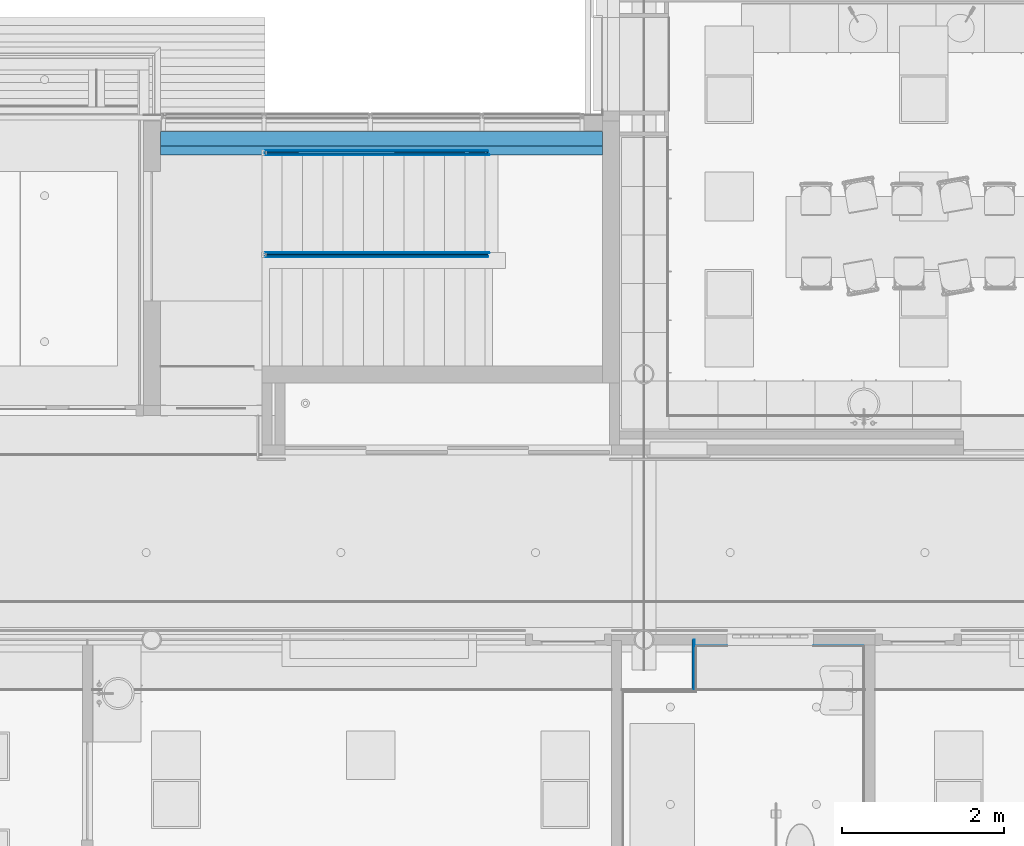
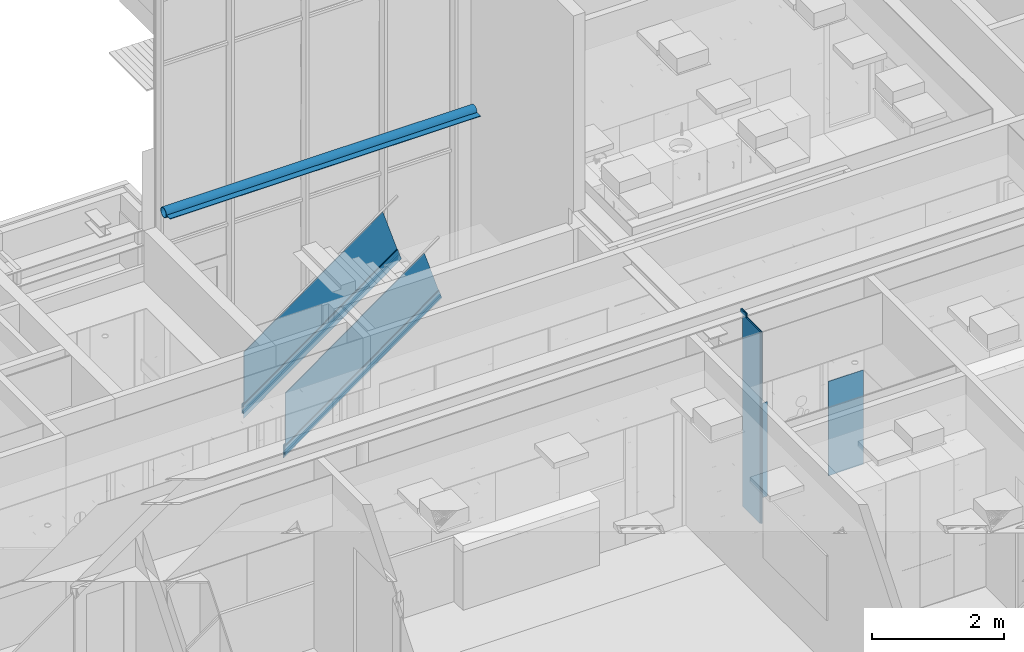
# One storey, part 100 of 347: 16 building element parts, 6 elements without a shape of their own.
"""IFC2X3 building model written with IfcOpenShell, lengths in millimetres."""

from ifc_helpers import new_model, entity, si_unit, converted_unit, derived_unit, money_unit, direction, frame, origin_with_axes, place, context, subcontext, project, spatial, faceted_brep, material, type_object, element, aggregate, save


model = new_model("IFC2X3")

# Units and contexts
model_context = context("Model", 3, precision=0.01, world=origin_with_axes(), true_north=direction((0.0, 1.0)))
plan_context = context("Plan", 3, precision=0.01, world=origin_with_axes(), true_north=direction((0.0, 1.0)))
body_context = subcontext(model_context, "Body", "Model", "MODEL_VIEW")
ifc_project = project(units=[si_unit("LENGTHUNIT", "METRE", prefix="MILLI"), si_unit("AREAUNIT", "SQUARE_METRE"), si_unit("VOLUMEUNIT", "CUBIC_METRE"), converted_unit("PLANEANGLEUNIT", "DEGREE", entity("IfcPlaneAngleMeasure", 0.0174532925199), si_unit("PLANEANGLEUNIT", "RADIAN"), dimensions=[0, 0, 0, 0, 0, 0, 0]), money_unit("EUR"), converted_unit("TIMEUNIT", "Year", entity("IfcTimeMeasure", 31556926.0), si_unit("TIMEUNIT", "SECOND"), dimensions=[0, 0, 1, 0, 0, 0, 0]), si_unit("MASSUNIT", "GRAM", prefix="KILO"), si_unit("THERMODYNAMICTEMPERATUREUNIT", "DEGREE_CELSIUS"), si_unit("LUMINOUSINTENSITYUNIT", "LUMEN"), si_unit("ENERGYUNIT", "JOULE", prefix="MEGA"), derived_unit("THERMALCONDUCTANCEUNIT", [(si_unit("POWERUNIT", "WATT"), 1), (si_unit("LENGTHUNIT", "METRE"), -1), (si_unit("THERMODYNAMICTEMPERATUREUNIT", "KELVIN"), -1)]), derived_unit("SPECIFICHEATCAPACITYUNIT", [(si_unit("ENERGYUNIT", "JOULE"), 1), (si_unit("MASSUNIT", "GRAM", prefix="KILO"), -1), (si_unit("THERMODYNAMICTEMPERATUREUNIT", "KELVIN"), -1)]), derived_unit("MASSDENSITYUNIT", [(si_unit("MASSUNIT", "GRAM", prefix="KILO"), 1), (si_unit("VOLUMEUNIT", "CUBIC_METRE"), -1)])], contexts=[model_context, plan_context])

# Site, building, storey
site_placement = place(None, origin_with_axes())
site = spatial("IfcSite", under=ifc_project, at=site_placement, Name="Site", CompositionType="ELEMENT")
building_placement = place(site_placement, origin_with_axes())
building = spatial("IfcBuilding", under=site, at=building_placement, Name="Naam gebouw", CompositionType="ELEMENT")
storey_placement = place(building_placement, origin_with_axes())
storey = spatial("IfcBuildingStorey", under=building, at=storey_placement, Name="begane grond", CompositionType="ELEMENT", Elevation=0.0)

# Beam, building element parts
beam_type_1 = type_object("IfcBeamType", Name="34 glazen balustrade 60 x 1200", PredefinedType="BEAM")
beam_1_placement = place(storey_placement, frame((19905.0, 18100.0, 28.7999955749), z_axis=(0.0, 0.0, 1.0), x_axis=(0.0, -1.0, 0.0)))
beam_1 = element("IfcBeam", 1, at=beam_1_placement, inside=storey, type_object=beam_type_1, Name="28_Balk-x", ObjectType="BEAM")
ifc_material_1 = material(Name="Glas")
building_element_part_1_placement = place(beam_1_placement, origin_with_axes())
building_element_part_1 = element("IfcBuildingElementPart", 2, at=building_element_part_1_placement, material=ifc_material_1, Name="Glas", context=body_context, shape_type="Brep", body=[
    faceted_brep([(-37.5, 2703.5490107, 1971.20000443), (-37.5, 20.0, 39.0446753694), (-37.5, 20.0, 989.75530976), (-37.5, 2454.69302792, 2742.73432738), (-37.5, 0.0, -28.7999955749), (-37.5, 20.0, -28.7999955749), (-37.5, 2732.57822921, 1881.20000443), (-37.5, 0.0, -86.2563627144), (-22.5, 20.0, 39.0446753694), (-22.5, 20.0, 989.75530976), (-22.5, 20.0, -28.7999955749), (-22.5, 2454.69302792, 2742.73432738), (-22.5, 2703.5490107, 1971.20000443), (-22.5, 2732.57822921, 1881.20000443), (-22.5, 0.0, -28.7999955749), (-22.5, 0.0, -86.2563627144)], [[[0, 1, 2, 3]], [[4, 5, 1, 0, 6, 7]], [[8, 9, 2, 1, 5, 10]], [[3, 2, 9, 11]], [[6, 0, 3, 11, 12, 13]], [[10, 5, 4, 14]], [[13, 15, 7, 6]], [[15, 14, 4, 7]], [[11, 9, 8, 12]], [[8, 10, 14, 15, 13, 12]]]),
])
ifc_material_2 = material(Name="Membraan - rubber")
building_element_part_2_placement = place(beam_1_placement, origin_with_axes())
building_element_part_2 = element("IfcBuildingElementPart", 3, at=building_element_part_2_placement, material=ifc_material_2, Name="Membraan - rubber", context=body_context, shape_type="Brep", body=[
    faceted_brep([(-22.4999940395, 0.0, -86.2563553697), (-22.4999940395, 0.0, -28.7999955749), (-22.4999940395, 20.0, -28.7999955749), (-22.4999940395, 20.0, 39.0446680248), (-22.4999940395, 2703.54901262, 1971.19999846), (-22.4999940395, 2732.57822729, 1881.20001039), (-37.4999940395, 0.0, -86.2563553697), (-37.4999940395, 0.0, -28.7999955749), (-49.9999990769, 0.0, -28.7999955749), (-50.0, 0.0, -98.5787002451), (-10.0, 0.0, -98.5787002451), (-9.99999907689, 0.0, -28.7999955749), (-9.99999907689, 20.0, -28.7999955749), (-9.99999907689, 20.0, 39.0446753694), (-10.0, 2703.5490107, 1971.20000443), (-37.4999940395, 2732.57822729, 1881.20001039), (-10.0, 2735.80369794, 1871.20000443), (-50.0, 2735.80369794, 1871.20000443), (-50.0, 2703.5490107, 1971.20000443), (-37.4999940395, 2703.54901262, 1971.19999846), (-37.4999940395, 20.0, 39.0446680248), (-37.4999940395, 20.0, -28.7999955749), (-49.9999990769, 20.0, -28.7999955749), (-49.9999990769, 20.0, 39.0446753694)], [[[0, 1, 2, 3, 4, 5]], [[6, 7, 8, 9, 10, 11, 1, 0]], [[12, 2, 1, 11]], [[12, 13, 3, 2]], [[4, 3, 13, 14]], [[15, 5, 4, 14, 16, 17, 18, 19]], [[15, 6, 0, 5]], [[20, 21, 7, 6, 15, 19]], [[21, 22, 8, 7]], [[9, 8, 22, 23, 18, 17]], [[16, 10, 9, 17]], [[13, 12, 11, 10, 16, 14]], [[18, 23, 20, 19]], [[21, 20, 23, 22]]]),
])
ifc_material_3 = material(Name="Metaal - Staal C wit")
building_element_part_3_placement = place(beam_1_placement, origin_with_axes())
building_element_part_3 = element("IfcBuildingElementPart", 4, at=building_element_part_3_placement, material=ifc_material_3, Name="Metaal - Staal C wit", context=body_context, shape_type="Brep", body=[
    faceted_brep([(-10.0, 0.0, -147.868050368), (-10.0, 2748.70557283, 1831.20000443), (-10.0, 2768.05838517, 1771.20000443), (-10.0, 0.0, -221.802075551), (-10.0, 0.0, 24.6446750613), (-10.0, 2703.5490107, 1971.20000443), (0.0, 2703.5490107, 1971.20000443), (0.0, 2768.05838517, 1771.20000443), (0.0, 0.0, -221.802075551), (0.0, 0.0, 24.6446750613)], [[[0, 1, 2, 3]], [[4, 5, 1, 0]], [[2, 1, 5, 6, 7]], [[3, 2, 7, 8]], [[4, 0, 3, 8, 9]], [[9, 6, 5, 4]], [[8, 7, 6, 9]]]),
])
building_element_part_4_placement = place(beam_1_placement, origin_with_axes())
building_element_part_4 = element("IfcBuildingElementPart", 5, at=building_element_part_4_placement, material=ifc_material_3, Name="Metaal - Staal C wit", context=body_context, shape_type="Brep", body=[
    faceted_brep([(-60.0, 0.0, 24.6446750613), (-60.0, 2703.5490107, 1971.20000443), (-60.0, 2751.93104155, 1821.20000443), (-60.0, 0.0, -160.190387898), (-50.0, 0.0, 24.6446750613), (-50.0, 2703.5490107, 1971.20000443), (-50.0, 2748.70557283, 1831.20000443), (-50.0, 2751.93104155, 1821.20000443), (-50.0, 0.0, -160.190387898), (-50.0, 0.0, -147.868050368)], [[[0, 1, 2, 3]], [[4, 5, 1, 0]], [[2, 1, 5, 6, 7]], [[3, 2, 7, 8]], [[4, 0, 3, 8, 9]], [[9, 6, 5, 4]], [[8, 7, 6, 9]]]),
])
building_element_part_5_placement = place(beam_1_placement, origin_with_axes())
building_element_part_5 = element("IfcBuildingElementPart", 6, at=building_element_part_5_placement, material=ifc_material_3, Name="Metaal - Staal C wit", context=body_context, shape_type="Brep", body=[
    faceted_brep([(-10.0, 0.0, -98.5787002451), (-10.0, 2735.80369794, 1871.20000443), (-50.0, 2735.80369794, 1871.20000443), (-50.0, 0.0, -98.5787002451), (-10.0, 0.0, -147.868050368), (-10.0, 2748.70557283, 1831.20000443), (-50.0, 2748.70557283, 1831.20000443), (-47.0, 2736.77133855, 1868.20000443), (-47.0, 2747.73793221, 1834.20000443), (-13.0, 2747.73793221, 1834.20000443), (-13.0, 2736.77133855, 1868.20000443), (-50.0, 0.0, -147.868050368), (-13.0, 0.0, -144.171349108), (-47.0, 0.0, -144.171349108), (-47.0, 0.0, -102.275401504), (-13.0, 0.0, -102.275401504)], [[[0, 1, 2, 3]], [[4, 5, 1, 0]], [[2, 1, 5, 6], [7, 8, 9, 10]], [[3, 2, 6, 11]], [[4, 0, 3, 11], [12, 13, 14, 15]], [[11, 6, 5, 4]], [[13, 8, 7, 14]], [[12, 9, 8, 13]], [[15, 10, 9, 12]], [[14, 7, 10, 15]]]),
])
aggregate(beam_1, [building_element_part_1, building_element_part_2, building_element_part_3, building_element_part_4, building_element_part_5])

beam_type_2 = type_object("IfcBeamType", Name="28 windligger 290 x 180", PredefinedType="BEAM")
beam_2_placement = place(storey_placement, frame((18615.0, 18300.0, 3960.0), z_axis=(0.0, 0.0, 1.0), x_axis=(0.0, -1.0, 0.0)))
beam_2 = element("IfcBeam", 7, at=beam_2_placement, inside=storey, type_object=beam_type_2, Name="28_Balk-x", ObjectType="BEAM")
ifc_material_4 = material(Name="Metaal - Staal C")
building_element_part_6_placement = place(beam_2_placement, origin_with_axes())
building_element_part_6 = element("IfcBuildingElementPart", 8, at=building_element_part_6_placement, material=ifc_material_4, Name="Metaal - Staal C", context=body_context, shape_type="Brep", body=[
    faceted_brep([(90.0, 5450.0, 0.0), (86.3543676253, 5450.0, 25.3559301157), (86.3543676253, 0.0, 25.3559301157), (90.0, 0.0, 0.0), (86.3543676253, 5450.0, -25.3559301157), (75.7128179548, 5450.0, -48.657673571), (58.9374660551, 5450.0, -68.0174616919), (37.3873511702, 5450.0, -81.8668795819), (12.8083354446, 5450.0, -89.0839297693), (-12.8083354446, 5450.0, -89.0839297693), (-37.3873511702, 5450.0, -81.8668795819), (-58.9374660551, 5450.0, -68.0174616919), (-75.7128179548, 5450.0, -48.657673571), (-86.3543676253, 5450.0, -25.3559301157), (-90.0, 5450.0, 0.0), (-86.3543676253, 5450.0, 25.3559301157), (-75.7128179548, 5450.0, 48.657673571), (-58.9374660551, 5450.0, 68.0174616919), (-37.3873511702, 5450.0, 81.8668795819), (-12.8083354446, 5450.0, 89.0839297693), (12.8083354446, 5450.0, 89.0839297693), (37.3873511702, 5450.0, 81.8668795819), (58.9374660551, 5450.0, 68.0174616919), (75.7128179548, 5450.0, 48.657673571), (-80.0, 5450.0, 0.0), (-76.0845213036, 5450.0, -24.72135955), (-64.72135955, 5450.0, -47.0228201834), (-47.0228201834, 5450.0, -64.72135955), (-24.72135955, 5450.0, -76.0845213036), (0.0, 5450.0, -80.0), (24.72135955, 5450.0, -76.0845213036), (47.0228201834, 5450.0, -64.72135955), (64.72135955, 5450.0, -47.0228201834), (76.0845213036, 5450.0, -24.72135955), (80.0, 5450.0, 0.0), (76.0845213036, 5450.0, 24.72135955), (64.72135955, 5450.0, 47.0228201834), (47.0228201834, 5450.0, 64.72135955), (24.72135955, 5450.0, 76.0845213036), (0.0, 5450.0, 80.0), (-24.72135955, 5450.0, 76.0845213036), (-47.0228201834, 5450.0, 64.72135955), (-64.72135955, 5450.0, 47.0228201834), (-76.0845213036, 5450.0, 24.72135955), (75.7128179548, 0.0, 48.657673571), (58.9374660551, 0.0, 68.0174616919), (37.3873511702, 0.0, 81.8668795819), (12.8083354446, 0.0, 89.0839297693), (-12.8083354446, 0.0, 89.0839297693), (-37.3873511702, 0.0, 81.8668795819), (-58.9374660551, 0.0, 68.0174616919), (-75.7128179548, 0.0, 48.657673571), (-86.3543676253, 0.0, 25.3559301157), (-90.0, 0.0, 0.0), (-86.3543676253, 0.0, -25.3559301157), (-75.7128179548, 0.0, -48.657673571), (-58.9374660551, 0.0, -68.0174616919), (-37.3873511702, 0.0, -81.8668795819), (-12.8083354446, 0.0, -89.0839297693), (12.8083354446, 0.0, -89.0839297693), (37.3873511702, 0.0, -81.8668795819), (58.9374660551, 0.0, -68.0174616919), (75.7128179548, 0.0, -48.657673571), (86.3543676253, 0.0, -25.3559301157), (-80.0, 0.0, 0.0), (-76.0845213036, 0.0, 24.72135955), (-64.72135955, 0.0, 47.0228201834), (-47.0228201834, 0.0, 64.72135955), (-24.72135955, 0.0, 76.0845213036), (0.0, 0.0, 80.0), (24.72135955, 0.0, 76.0845213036), (47.0228201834, 0.0, 64.72135955), (64.72135955, 0.0, 47.0228201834), (76.0845213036, 0.0, 24.72135955), (80.0, 0.0, 0.0), (76.0845213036, 0.0, -24.72135955), (64.72135955, 0.0, -47.0228201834), (47.0228201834, 0.0, -64.72135955), (24.72135955, 0.0, -76.0845213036), (0.0, 0.0, -80.0), (-24.72135955, 0.0, -76.0845213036), (-47.0228201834, 0.0, -64.72135955), (-64.72135955, 0.0, -47.0228201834), (-76.0845213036, 0.0, -24.72135955)], [[[0, 1, 2, 3]], [[0, 4, 5, 6, 7, 8, 9, 10, 11, 12, 13, 14, 15, 16, 17, 18, 19, 20, 21, 22, 23, 1], [24, 25, 26, 27, 28, 29, 30, 31, 32, 33, 34, 35, 36, 37, 38, 39, 40, 41, 42, 43]], [[1, 23, 44, 2]], [[3, 2, 44, 45, 46, 47, 48, 49, 50, 51, 52, 53, 54, 55, 56, 57, 58, 59, 60, 61, 62, 63], [64, 65, 66, 67, 68, 69, 70, 71, 72, 73, 74, 75, 76, 77, 78, 79, 80, 81, 82, 83]], [[4, 0, 3, 63]], [[5, 4, 63, 62]], [[6, 5, 62, 61]], [[7, 6, 61, 60]], [[8, 7, 60, 59]], [[9, 8, 59, 58]], [[10, 9, 58, 57]], [[11, 10, 57, 56]], [[12, 11, 56, 55]], [[13, 12, 55, 54]], [[14, 13, 54, 53]], [[15, 14, 53, 52]], [[16, 15, 52, 51]], [[17, 16, 51, 50]], [[18, 17, 50, 49]], [[19, 18, 49, 48]], [[20, 19, 48, 47]], [[21, 20, 47, 46]], [[22, 21, 46, 45]], [[23, 22, 45, 44]], [[25, 24, 64, 83]], [[26, 25, 83, 82]], [[27, 26, 82, 81]], [[28, 27, 81, 80]], [[29, 28, 80, 79]], [[30, 29, 79, 78]], [[31, 30, 78, 77]], [[32, 31, 77, 76]], [[33, 32, 76, 75]], [[34, 33, 75, 74]], [[35, 34, 74, 73]], [[36, 35, 73, 72]], [[37, 36, 72, 71]], [[38, 37, 71, 70]], [[39, 38, 70, 69]], [[40, 39, 69, 68]], [[41, 40, 68, 67]], [[42, 41, 67, 66]], [[43, 42, 66, 65]], [[24, 43, 65, 64]]]),
])
building_element_part_7_placement = place(beam_2_placement, origin_with_axes())
building_element_part_7 = element("IfcBuildingElementPart", 9, at=building_element_part_7_placement, material=ifc_material_4, Name="Metaal - Staal C", context=body_context, shape_type="Brep", body=[
    faceted_brep([(90.0, 5450.0, 5.0), (90.0, 5450.0, -5.0), (90.0, 0.0, -5.0), (90.0, 0.0, 5.0), (200.0, 5450.0, 5.0), (200.0, 5450.0, -5.0), (200.0, 0.0, -5.0), (200.0, 0.0, 5.0)], [[[0, 1, 2, 3]], [[0, 4, 5, 1]], [[1, 5, 6, 2]], [[3, 2, 6, 7]], [[4, 0, 3, 7]], [[5, 4, 7, 6]]]),
])
aggregate(beam_2, [building_element_part_6, building_element_part_7])

beam_3_placement = place(storey_placement, frame((19905.0, 16900.0, 28.7999955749), z_axis=(0.0, 0.0, 1.0), x_axis=(0.0, -1.0, 0.0)))
beam_3 = element("IfcBeam", 10, at=beam_3_placement, inside=storey, type_object=beam_type_1, Name="28_Balk-x", ObjectType="BEAM")
building_element_part_8_placement = place(beam_3_placement, origin_with_axes())
building_element_part_8 = element("IfcBuildingElementPart", 11, at=building_element_part_8_placement, material=ifc_material_1, Name="Glas", context=body_context, shape_type="Brep", body=[
    faceted_brep([(22.5, 2703.5490107, 1971.20000443), (22.5, 20.0, 39.0446753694), (22.5, 20.0, 989.75530976), (22.5, 2454.69302792, 2742.73432738), (22.5, 0.0, -28.7999955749), (22.5, 20.0, -28.7999955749), (22.5, 2732.57822921, 1881.20000443), (22.5, 0.0, -86.2563627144), (37.5, 20.0, 39.0446753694), (37.5, 20.0, 989.75530976), (37.5, 20.0, -28.7999955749), (37.5, 2454.69302792, 2742.73432738), (37.5, 2703.5490107, 1971.20000443), (37.5, 2732.57822921, 1881.20000443), (37.5, 0.0, -28.7999955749), (37.5, 0.0, -86.2563627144)], [[[0, 1, 2, 3]], [[4, 5, 1, 0, 6, 7]], [[8, 9, 2, 1, 5, 10]], [[3, 2, 9, 11]], [[6, 0, 3, 11, 12, 13]], [[10, 5, 4, 14]], [[13, 15, 7, 6]], [[15, 14, 4, 7]], [[11, 9, 8, 12]], [[8, 10, 14, 15, 13, 12]]]),
])
building_element_part_9_placement = place(beam_3_placement, origin_with_axes())
building_element_part_9 = element("IfcBuildingElementPart", 12, at=building_element_part_9_placement, material=ifc_material_2, Name="Membraan - rubber", context=body_context, shape_type="Brep", body=[
    faceted_brep([(37.4999940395, 0.0, -86.2563553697), (37.4999940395, 0.0, -28.7999955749), (37.4999940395, 20.0, -28.7999955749), (37.4999940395, 20.0, 39.0446680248), (37.4999940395, 2703.54901262, 1971.19999846), (37.4999940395, 2732.57822729, 1881.20001039), (22.4999940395, 0.0, -86.2563553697), (22.4999940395, 0.0, -28.7999955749), (9.99999907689, 0.0, -28.7999955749), (10.0, 0.0, -98.5787002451), (50.0, 0.0, -98.5787002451), (49.9999990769, 0.0, -28.7999955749), (49.9999990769, 20.0, -28.7999955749), (49.9999990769, 20.0, 39.0446753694), (50.0, 2703.5490107, 1971.20000443), (50.0, 2735.80369794, 1871.20000443), (10.0, 2735.80369794, 1871.20000443), (10.0, 2703.5490107, 1971.20000443), (22.4999940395, 2703.54901262, 1971.19999846), (22.4999940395, 2732.57822729, 1881.20001039), (22.4999940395, 20.0, 39.0446680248), (22.4999940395, 20.0, -28.7999955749), (9.99999907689, 20.0, -28.7999955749), (9.99999907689, 20.0, 39.0446753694)], [[[0, 1, 2, 3, 4, 5]], [[6, 7, 8, 9, 10, 11, 1, 0]], [[12, 2, 1, 11]], [[12, 13, 3, 2]], [[4, 3, 13, 14]], [[4, 14, 15, 16, 17, 18, 19, 5]], [[19, 6, 0, 5]], [[20, 21, 7, 6, 19, 18]], [[21, 22, 8, 7]], [[9, 8, 22, 23, 17, 16]], [[15, 10, 9, 16]], [[13, 12, 11, 10, 15, 14]], [[17, 23, 20, 18]], [[21, 20, 23, 22]]]),
])
building_element_part_10_placement = place(beam_3_placement, origin_with_axes())
building_element_part_10 = element("IfcBuildingElementPart", 13, at=building_element_part_10_placement, material=ifc_material_3, Name="Metaal - Staal C wit", context=body_context, shape_type="Brep", body=[
    faceted_brep([(10.0, 0.0, 24.6446750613), (10.0, 2703.5490107, 1971.20000443), (0.0, 2703.5490107, 1971.20000443), (0.0, 0.0, 24.6446750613), (10.0, 0.0, -147.868050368), (10.0, 2748.70557283, 1831.20000443), (10.0, 2768.05838517, 1771.20000443), (0.0, 2768.05838517, 1771.20000443), (0.0, 0.0, -221.802075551), (10.0, 0.0, -221.802075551)], [[[0, 1, 2, 3]], [[4, 5, 1, 0]], [[2, 1, 5, 6, 7]], [[3, 2, 7, 8]], [[4, 0, 3, 8, 9]], [[9, 6, 5, 4]], [[8, 7, 6, 9]]]),
])
building_element_part_11_placement = place(beam_3_placement, origin_with_axes())
building_element_part_11 = element("IfcBuildingElementPart", 14, at=building_element_part_11_placement, material=ifc_material_3, Name="Metaal - Staal C wit", context=body_context, shape_type="Brep", body=[
    faceted_brep([(50.0, 0.0, 24.6446750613), (50.0, 2703.5490107, 1971.20000443), (50.0, 2748.70557283, 1831.20000443), (50.0, 0.0, -147.868050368), (60.0, 0.0, 24.6446750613), (60.0, 2703.5490107, 1971.20000443), (60.0, 2751.93104155, 1821.20000443), (50.0, 2751.93104155, 1821.20000443), (50.0, 0.0, -160.190387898), (60.0, 0.0, -160.190387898)], [[[0, 1, 2, 3]], [[4, 5, 1, 0]], [[2, 1, 5, 6, 7]], [[3, 2, 7, 8]], [[4, 0, 3, 8, 9]], [[9, 6, 5, 4]], [[8, 7, 6, 9]]]),
])
building_element_part_12_placement = place(beam_3_placement, origin_with_axes())
building_element_part_12 = element("IfcBuildingElementPart", 15, at=building_element_part_12_placement, material=ifc_material_3, Name="Metaal - Staal C wit", context=body_context, shape_type="Brep", body=[
    faceted_brep([(10.0, 0.0, -147.868050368), (10.0, 2748.70557283, 1831.20000443), (50.0, 2748.70557283, 1831.20000443), (50.0, 0.0, -147.868050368), (10.0, 0.0, -98.5787002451), (10.0, 2735.80369794, 1871.20000443), (50.0, 2735.80369794, 1871.20000443), (13.0, 2736.77133855, 1868.20000443), (13.0, 2747.73793221, 1834.20000443), (47.0, 2747.73793221, 1834.20000443), (47.0, 2736.77133855, 1868.20000443), (50.0, 0.0, -98.5787002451), (47.0, 0.0, -144.171349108), (13.0, 0.0, -144.171349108), (13.0, 0.0, -102.275401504), (47.0, 0.0, -102.275401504)], [[[0, 1, 2, 3]], [[4, 5, 1, 0]], [[2, 1, 5, 6], [7, 8, 9, 10]], [[3, 2, 6, 11]], [[4, 0, 3, 11], [12, 13, 14, 15]], [[11, 6, 5, 4]], [[13, 8, 7, 14]], [[12, 9, 8, 13]], [[15, 10, 9, 12]], [[14, 7, 10, 15]]]),
])
aggregate(beam_3, [building_element_part_8, building_element_part_9, building_element_part_10, building_element_part_11, building_element_part_12])

# Proxy, building element part
building_element_proxy_type = type_object("IfcBuildingElementProxyType", Name="wandtegels 150x300 1800+ 10 x 1800", PredefinedType="NOTDEFINED")
proxy_1_placement = place(storey_placement, frame((25600.0, 12052.499988, 0.0), z_axis=(0.0, 0.0, 1.0), x_axis=(-1.0, 0.0, 0.0)))
proxy_1 = element("IfcBuildingElementProxy", 16, at=proxy_1_placement, inside=storey, type_object=building_element_proxy_type, Name="42_56 wandtegels keramisch")
ifc_material_5 = material(Name="Tegels - Wand")
building_element_part_13_placement = place(proxy_1_placement, origin_with_axes())
building_element_part_13 = element("IfcBuildingElementPart", 17, at=building_element_part_13_placement, material=ifc_material_5, Name="Tegels - Wand", context=body_context, shape_type="Brep", body=[
    faceted_brep([(390.000005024, -1.84472881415e-06, 49.9999904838), (390.000005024, -1.84472881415e-06, 1799.99997928), (0.0, -1.84472881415e-06, 1799.99997928), (0.0, -1.84472881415e-06, 50.0), (390.000005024, 10.0000071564, 1799.99997928), (390.000005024, 7.99998912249, 49.9999904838), (390.000005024, 10.0000071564, 49.9999904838), (0.0, 10.0000071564, 1799.99997928), (0.0, 10.0000071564, 50.0), (0.0, 7.99998912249, 49.9999904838)], [[[0, 1, 2, 3]], [[4, 1, 0, 5, 6]], [[1, 4, 7, 2]], [[2, 7, 8, 9, 3]], [[5, 0, 3, 9]], [[6, 5, 9, 8]], [[4, 6, 8, 7]]]),
])
aggregate(proxy_1, [building_element_part_13])

proxy_2_placement = place(storey_placement, frame((27290.0, 12052.499988, 0.0), z_axis=(0.0, 0.0, 1.0), x_axis=(-1.0, 0.0, 0.0)))
proxy_2 = element("IfcBuildingElementProxy", 18, at=proxy_2_placement, inside=storey, type_object=building_element_proxy_type, Name="42_62 wandtegels keramisch")
building_element_part_14_placement = place(proxy_2_placement, origin_with_axes())
building_element_part_14 = element("IfcBuildingElementPart", 19, at=building_element_part_14_placement, material=ifc_material_5, Name="Tegels - Wand", context=body_context, shape_type="Brep", body=[
    faceted_brep([(10.0000071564, 10.0000071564, 1799.99997928), (10.0000071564, -1.84472881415e-06, 1799.99997928), (626.0, -1.84472881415e-06, 1799.99997928), (626.0, 10.0000071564, 1799.99997928), (10.0000071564, -1.84472881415e-06, 50.0), (10.0000071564, 10.0000071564, 50.0), (10.0000071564, 7.99998912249, 50.0), (626.0, -1.84472881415e-06, 50.0), (626.0, 7.99998912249, 49.9999904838), (626.0, 10.0000071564, 50.0)], [[[0, 1, 2, 3]], [[4, 1, 0, 5, 6]], [[1, 4, 7, 2]], [[8, 9, 3, 2, 7]], [[5, 0, 3, 9]], [[6, 5, 9, 8]], [[4, 6, 8, 7]]]),
])
aggregate(proxy_2, [building_element_part_14])

# Wall, building element parts
wall_type = type_object("IfcWallType", Name="ALG LSW sanitair 100", PredefinedType="NOTDEFINED")
wall_placement = place(storey_placement, frame((25100.0, 11599.999972, 0.0), z_axis=(0.0, 0.0, 1.0), x_axis=(0.0, 1.0, 0.0)))
wall = element("IfcWall", 20, at=wall_placement, inside=storey, type_object=wall_type, Name="22_GF 100 ECO RD V/75.2.A")
ifc_material_6 = material(Name="Hout - Multiplex wbp")
building_element_part_15_placement = place(wall_placement, origin_with_axes())
building_element_part_15 = element("IfcBuildingElementPart", 21, at=building_element_part_15_placement, material=ifc_material_6, Name="Hout - Multiplex wbp", context=body_context, shape_type="Brep", body=[
    faceted_brep([(355.00002799, -70.0, 3630.0), (355.00002799, -88.0, 3630.0), (525.00002799, -88.0, 3630.0), (525.00002799, -70.0, 3630.0), (355.00002799, -88.0, 3560.0), (355.00002799, -70.0, 3560.0), (-70.0, -88.0, 3560.0), (-70.0, -88.0, 0.0), (462.50002799, -88.0, 0.0), (462.50002799, -88.0, 3560.0), (525.00002799, -88.0, 3560.0), (525.00002799, -70.0, 3560.0), (462.50002799, -70.0, 3560.0), (462.50002799, -70.0, 0.0), (-70.0, -70.0, 0.0), (-70.0, -70.0, 3560.0)], [[[0, 1, 2, 3]], [[4, 1, 0, 5]], [[4, 6, 7, 8, 9, 10, 2, 1]], [[2, 10, 11, 3]], [[5, 0, 3, 11, 12, 13, 14, 15]], [[6, 4, 5, 15]], [[6, 15, 14, 7]], [[14, 13, 8, 7]], [[12, 9, 8, 13]], [[12, 11, 10, 9]]]),
])
ifc_material_7 = material(Name="ALG - LICHTE SCHEIDINGSWAND AFW")
building_element_part_16_placement = place(wall_placement, origin_with_axes())
building_element_part_16 = element("IfcBuildingElementPart", 22, at=building_element_part_16_placement, material=ifc_material_7, Name="ALG - LICHTE SCHEIDINGSWAND AFW", context=body_context, shape_type="Brep", body=[
    faceted_brep([(355.00002799, -88.0, 3630.0), (355.00002799, -100.0, 3630.0), (525.00002799, -100.0, 3630.0), (525.00002799, -88.0, 3630.0), (355.00002799, -100.0, 3560.0), (355.00002799, -88.0, 3560.0), (-88.0, -100.0, 3560.0), (-88.0, -100.0, 0.0), (462.50002799, -100.0, 0.0), (462.50002799, -100.0, 3560.0), (525.00002799, -100.0, 3560.0), (525.00002799, -88.0, 3560.0), (462.50002799, -88.0, 3560.0), (462.50002799, -88.0, 0.0), (-88.0, -88.0, 0.0), (-88.0, -88.0, 3560.0)], [[[0, 1, 2, 3]], [[4, 1, 0, 5]], [[4, 6, 7, 8, 9, 10, 2, 1]], [[2, 10, 11, 3]], [[5, 0, 3, 11, 12, 13, 14, 15]], [[6, 4, 5, 15]], [[6, 15, 14, 7]], [[14, 13, 8, 7]], [[12, 9, 8, 13]], [[12, 11, 10, 9]]]),
])
aggregate(wall, [building_element_part_15, building_element_part_16])

save(model, "model.ifc")
